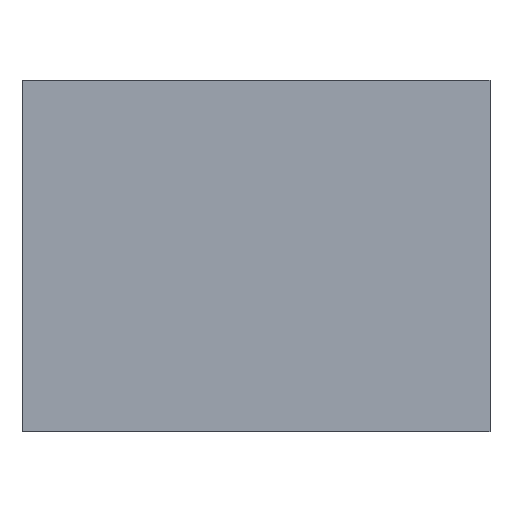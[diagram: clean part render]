
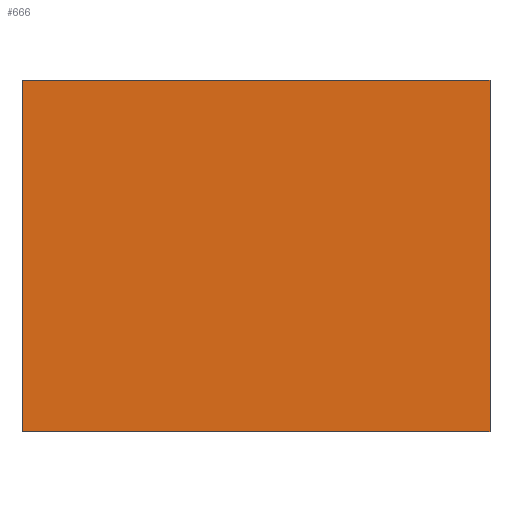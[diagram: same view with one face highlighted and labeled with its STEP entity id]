
A CAD part, front view. The second image highlights one B-rep face of the part: STEP entity #666.
In plain terms, the highlighted planar face has unit normal (0, -1, 0).
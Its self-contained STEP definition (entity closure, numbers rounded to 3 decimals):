
#60 = VECTOR ( 'NONE', #127, 1000. ) ;
#88 = VERTEX_POINT ( 'NONE', #265 ) ;
#94 = CARTESIAN_POINT ( 'NONE',  ( 40., -15., -15. ) ) ;
#107 = LINE ( 'NONE', #834, #60 ) ;
#127 = DIRECTION ( 'NONE',  ( 0., 0., -1. ) ) ;
#132 = DIRECTION ( 'NONE',  ( -1., 0., 0. ) ) ;
#160 = LINE ( 'NONE', #980, #684 ) ;
#166 = ORIENTED_EDGE ( 'NONE', *, *, #790, .T. ) ;
#168 = CARTESIAN_POINT ( 'NONE',  ( 40., -15., 15. ) ) ;
#172 = DIRECTION ( 'NONE',  ( -1., 0., 0. ) ) ;
#174 = AXIS2_PLACEMENT_3D ( 'NONE', #631, #784, #1148 ) ;
#237 = CARTESIAN_POINT ( 'NONE',  ( 0., -15., -15. ) ) ;
#265 = CARTESIAN_POINT ( 'NONE',  ( 0., -15., 15. ) ) ;
#293 = ORIENTED_EDGE ( 'NONE', *, *, #1145, .F. ) ;
#344 = EDGE_CURVE ( 'NONE', #1053, #839, #377, .T. ) ;
#352 = VERTEX_POINT ( 'NONE', #940 ) ;
#377 = LINE ( 'NONE', #94, #657 ) ;
#400 = LINE ( 'NONE', #168, #503 ) ;
#503 = VECTOR ( 'NONE', #172, 1000. ) ;
#604 = CARTESIAN_POINT ( 'NONE',  ( 40., -15., -15. ) ) ;
#606 = PLANE ( 'NONE',  #174 ) ;
#631 = CARTESIAN_POINT ( 'NONE',  ( 40., -15., 15. ) ) ;
#657 = VECTOR ( 'NONE', #132, 1000. ) ;
#666 = ADVANCED_FACE ( 'NONE', ( #909 ), #606, .F. ) ;
#684 = VECTOR ( 'NONE', #1114, 1000. ) ;
#784 = DIRECTION ( 'NONE',  ( 0., 1., 0. ) ) ;
#790 = EDGE_CURVE ( 'NONE', #352, #88, #400, .T. ) ;
#834 = CARTESIAN_POINT ( 'NONE',  ( 40., -15., 15. ) ) ;
#839 = VERTEX_POINT ( 'NONE', #237 ) ;
#909 = FACE_OUTER_BOUND ( 'NONE', #963, .T. ) ;
#935 = ORIENTED_EDGE ( 'NONE', *, *, #344, .F. ) ;
#940 = CARTESIAN_POINT ( 'NONE',  ( 40., -15., 15. ) ) ;
#963 = EDGE_LOOP ( 'NONE', ( #988, #935, #293, #166 ) ) ;
#980 = CARTESIAN_POINT ( 'NONE',  ( 0., -15., 15. ) ) ;
#988 = ORIENTED_EDGE ( 'NONE', *, *, #992, .T. ) ;
#992 = EDGE_CURVE ( 'NONE', #88, #839, #160, .T. ) ;
#1053 = VERTEX_POINT ( 'NONE', #604 ) ;
#1114 = DIRECTION ( 'NONE',  ( 0., 0., -1. ) ) ;
#1145 = EDGE_CURVE ( 'NONE', #352, #1053, #107, .T. ) ;
#1148 = DIRECTION ( 'NONE',  ( 0., 0., 1. ) ) ;
